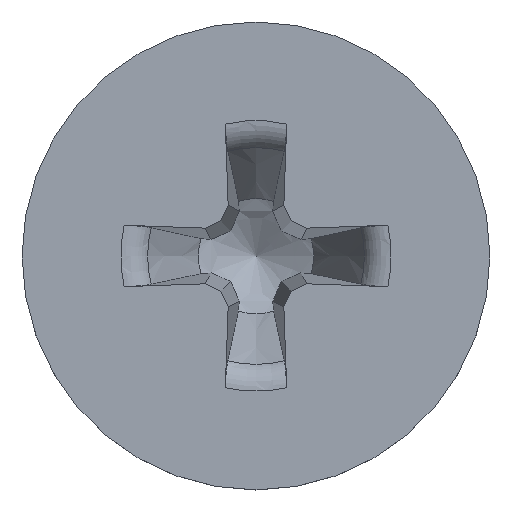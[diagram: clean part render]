
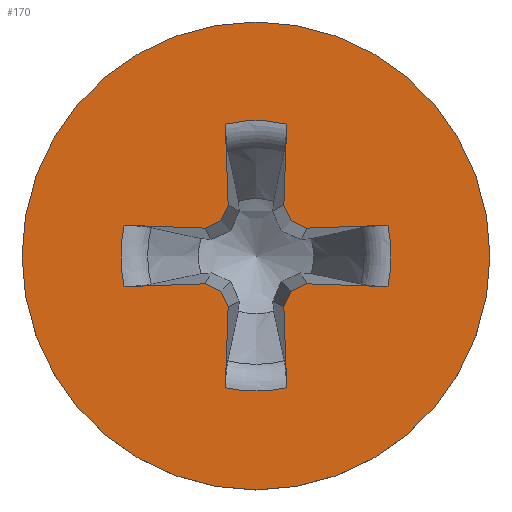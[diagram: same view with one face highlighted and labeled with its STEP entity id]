
A CAD part, top view. The second image highlights one B-rep face of the part: STEP entity #170.
In plain terms, the highlighted planar face has unit normal (0, 0, 1).
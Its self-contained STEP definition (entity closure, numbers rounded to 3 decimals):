
#52=PLANE('',#859);
#70=LINE('',#1328,#109);
#71=LINE('',#1333,#110);
#72=LINE('',#1335,#111);
#73=LINE('',#1337,#112);
#74=LINE('',#1339,#113);
#75=LINE('',#1343,#114);
#76=LINE('',#1345,#115);
#77=LINE('',#1347,#116);
#78=LINE('',#1349,#117);
#79=LINE('',#1353,#118);
#80=LINE('',#1355,#119);
#81=LINE('',#1357,#120);
#82=LINE('',#1359,#121);
#83=LINE('',#1363,#122);
#84=LINE('',#1365,#123);
#85=LINE('',#1367,#124);
#109=VECTOR('',#919,1.);
#110=VECTOR('',#922,1.);
#111=VECTOR('',#923,1.);
#112=VECTOR('',#924,1.);
#113=VECTOR('',#925,1.);
#114=VECTOR('',#928,1.);
#115=VECTOR('',#929,1.);
#116=VECTOR('',#930,1.);
#117=VECTOR('',#931,1.);
#118=VECTOR('',#934,1.);
#119=VECTOR('',#935,1.);
#120=VECTOR('',#936,1.);
#121=VECTOR('',#937,1.);
#122=VECTOR('',#940,1.);
#123=VECTOR('',#941,1.);
#124=VECTOR('',#942,1.);
#156=FACE_BOUND('',#270,.T.);
#157=FACE_BOUND('',#271,.T.);
#170=ADVANCED_FACE('',(#156,#157),#52,.F.);
#270=EDGE_LOOP('',(#357));
#271=EDGE_LOOP('',(#358,#359,#360,#361,#362,#363,#364,#365,#366,#367,#368,
#369,#370,#371,#372,#373,#374,#375,#376,#377));
#325=CIRCLE('',#854,4.65);
#326=CIRCLE('',#855,2.69);
#327=CIRCLE('',#856,2.69);
#328=CIRCLE('',#857,2.69);
#329=CIRCLE('',#858,2.69);
#357=ORIENTED_EDGE('',*,*,#679,.T.);
#358=ORIENTED_EDGE('',*,*,#680,.F.);
#359=ORIENTED_EDGE('',*,*,#681,.T.);
#360=ORIENTED_EDGE('',*,*,#682,.F.);
#361=ORIENTED_EDGE('',*,*,#683,.F.);
#362=ORIENTED_EDGE('',*,*,#684,.F.);
#363=ORIENTED_EDGE('',*,*,#685,.F.);
#364=ORIENTED_EDGE('',*,*,#686,.T.);
#365=ORIENTED_EDGE('',*,*,#687,.F.);
#366=ORIENTED_EDGE('',*,*,#688,.F.);
#367=ORIENTED_EDGE('',*,*,#689,.F.);
#368=ORIENTED_EDGE('',*,*,#690,.F.);
#369=ORIENTED_EDGE('',*,*,#691,.T.);
#370=ORIENTED_EDGE('',*,*,#692,.F.);
#371=ORIENTED_EDGE('',*,*,#693,.F.);
#372=ORIENTED_EDGE('',*,*,#694,.F.);
#373=ORIENTED_EDGE('',*,*,#695,.F.);
#374=ORIENTED_EDGE('',*,*,#696,.T.);
#375=ORIENTED_EDGE('',*,*,#697,.F.);
#376=ORIENTED_EDGE('',*,*,#698,.F.);
#377=ORIENTED_EDGE('',*,*,#699,.F.);
#597=VERTEX_POINT('',#1327);
#598=VERTEX_POINT('',#1329);
#599=VERTEX_POINT('',#1330);
#600=VERTEX_POINT('',#1332);
#601=VERTEX_POINT('',#1334);
#602=VERTEX_POINT('',#1336);
#603=VERTEX_POINT('',#1338);
#604=VERTEX_POINT('',#1340);
#605=VERTEX_POINT('',#1342);
#606=VERTEX_POINT('',#1344);
#607=VERTEX_POINT('',#1346);
#608=VERTEX_POINT('',#1348);
#609=VERTEX_POINT('',#1350);
#610=VERTEX_POINT('',#1352);
#611=VERTEX_POINT('',#1354);
#612=VERTEX_POINT('',#1356);
#613=VERTEX_POINT('',#1358);
#614=VERTEX_POINT('',#1360);
#615=VERTEX_POINT('',#1362);
#616=VERTEX_POINT('',#1364);
#617=VERTEX_POINT('',#1366);
#679=EDGE_CURVE('',#597,#597,#325,.T.);
#680=EDGE_CURVE('',#598,#599,#70,.T.);
#681=EDGE_CURVE('',#598,#600,#326,.T.);
#682=EDGE_CURVE('',#601,#600,#71,.T.);
#683=EDGE_CURVE('',#602,#601,#72,.T.);
#684=EDGE_CURVE('',#603,#602,#73,.T.);
#685=EDGE_CURVE('',#604,#603,#74,.T.);
#686=EDGE_CURVE('',#604,#605,#327,.T.);
#687=EDGE_CURVE('',#606,#605,#75,.T.);
#688=EDGE_CURVE('',#607,#606,#76,.T.);
#689=EDGE_CURVE('',#608,#607,#77,.T.);
#690=EDGE_CURVE('',#609,#608,#78,.T.);
#691=EDGE_CURVE('',#609,#610,#328,.T.);
#692=EDGE_CURVE('',#611,#610,#79,.T.);
#693=EDGE_CURVE('',#612,#611,#80,.T.);
#694=EDGE_CURVE('',#613,#612,#81,.T.);
#695=EDGE_CURVE('',#614,#613,#82,.T.);
#696=EDGE_CURVE('',#614,#615,#329,.T.);
#697=EDGE_CURVE('',#616,#615,#83,.T.);
#698=EDGE_CURVE('',#617,#616,#84,.T.);
#699=EDGE_CURVE('',#599,#617,#85,.T.);
#854=AXIS2_PLACEMENT_3D('',#1326,#917,#918);
#855=AXIS2_PLACEMENT_3D('',#1331,#920,#921);
#856=AXIS2_PLACEMENT_3D('',#1341,#926,#927);
#857=AXIS2_PLACEMENT_3D('',#1351,#932,#933);
#858=AXIS2_PLACEMENT_3D('',#1361,#938,#939);
#859=AXIS2_PLACEMENT_3D('',#1368,#943,#944);
#917=DIRECTION('',(0.,0.,1.));
#918=DIRECTION('',(1.,0.,0.));
#919=DIRECTION('',(-0.999,-0.035,0.));
#920=DIRECTION('',(0.,0.,-1.));
#921=DIRECTION('',(-1.,0.,0.));
#922=DIRECTION('',(0.999,-0.035,0.));
#923=DIRECTION('',(0.906,0.423,0.));
#924=DIRECTION('',(0.423,0.906,0.));
#925=DIRECTION('',(-0.035,0.999,0.));
#926=DIRECTION('',(0.,0.,-1.));
#927=DIRECTION('',(-1.,0.,0.));
#928=DIRECTION('',(-0.035,-0.999,0.));
#929=DIRECTION('',(0.423,-0.906,0.));
#930=DIRECTION('',(0.906,-0.423,0.));
#931=DIRECTION('',(0.999,0.035,0.));
#932=DIRECTION('',(0.,0.,-1.));
#933=DIRECTION('',(-1.,0.,0.));
#934=DIRECTION('',(-0.999,0.035,0.));
#935=DIRECTION('',(-0.906,-0.423,0.));
#936=DIRECTION('',(-0.423,-0.906,0.));
#937=DIRECTION('',(0.035,-0.999,0.));
#938=DIRECTION('',(0.,0.,-1.));
#939=DIRECTION('',(-1.,0.,0.));
#940=DIRECTION('',(0.035,0.999,0.));
#941=DIRECTION('',(-0.423,0.906,0.));
#942=DIRECTION('',(-0.906,0.423,0.));
#943=DIRECTION('',(0.,0.,-1.));
#944=DIRECTION('',(-1.,0.,0.));
#1326=CARTESIAN_POINT('',(0.,0.,3.705));
#1327=CARTESIAN_POINT('',(4.65,0.,3.705));
#1328=CARTESIAN_POINT('',(0.144,0.523,3.705));
#1329=CARTESIAN_POINT('',(2.62,0.61,3.705));
#1330=CARTESIAN_POINT('',(1.009,0.553,3.705));
#1331=CARTESIAN_POINT('',(0.,0.,3.705));
#1332=CARTESIAN_POINT('',(2.62,-0.61,3.705));
#1333=CARTESIAN_POINT('',(-0.18,-0.512,3.705));
#1334=CARTESIAN_POINT('',(1.009,-0.553,3.705));
#1335=CARTESIAN_POINT('',(2.173,-0.01,3.705));
#1336=CARTESIAN_POINT('',(0.698,-0.698,3.705));
#1337=CARTESIAN_POINT('',(2.622,3.427,3.705));
#1338=CARTESIAN_POINT('',(0.553,-1.009,3.705));
#1339=CARTESIAN_POINT('',(0.355,4.662,3.705));
#1340=CARTESIAN_POINT('',(0.61,-2.62,3.705));
#1341=CARTESIAN_POINT('',(0.,0.,3.705));
#1342=CARTESIAN_POINT('',(-0.61,-2.62,3.705));
#1343=CARTESIAN_POINT('',(-0.355,4.662,3.705));
#1344=CARTESIAN_POINT('',(-0.553,-1.009,3.705));
#1345=CARTESIAN_POINT('',(-2.622,3.427,3.705));
#1346=CARTESIAN_POINT('',(-0.698,-0.698,3.705));
#1347=CARTESIAN_POINT('',(-2.173,-0.01,3.705));
#1348=CARTESIAN_POINT('',(-1.009,-0.553,3.705));
#1349=CARTESIAN_POINT('',(0.18,-0.512,3.705));
#1350=CARTESIAN_POINT('',(-2.62,-0.61,3.705));
#1351=CARTESIAN_POINT('',(0.,0.,3.705));
#1352=CARTESIAN_POINT('',(-2.62,0.61,3.705));
#1353=CARTESIAN_POINT('',(-0.144,0.523,3.705));
#1354=CARTESIAN_POINT('',(-1.009,0.553,3.705));
#1355=CARTESIAN_POINT('',(1.389,1.671,3.705));
#1356=CARTESIAN_POINT('',(-0.698,0.698,3.705));
#1357=CARTESIAN_POINT('',(0.94,4.212,3.705));
#1358=CARTESIAN_POINT('',(-0.553,1.009,3.705));
#1359=CARTESIAN_POINT('',(-0.68,4.626,3.705));
#1360=CARTESIAN_POINT('',(-0.61,2.62,3.705));
#1361=CARTESIAN_POINT('',(0.,0.,3.705));
#1362=CARTESIAN_POINT('',(0.61,2.62,3.705));
#1363=CARTESIAN_POINT('',(0.68,4.626,3.705));
#1364=CARTESIAN_POINT('',(0.553,1.009,3.705));
#1365=CARTESIAN_POINT('',(-0.94,4.212,3.705));
#1366=CARTESIAN_POINT('',(0.698,0.698,3.705));
#1367=CARTESIAN_POINT('',(-1.389,1.671,3.705));
#1368=CARTESIAN_POINT('',(0.,4.65,3.705));
